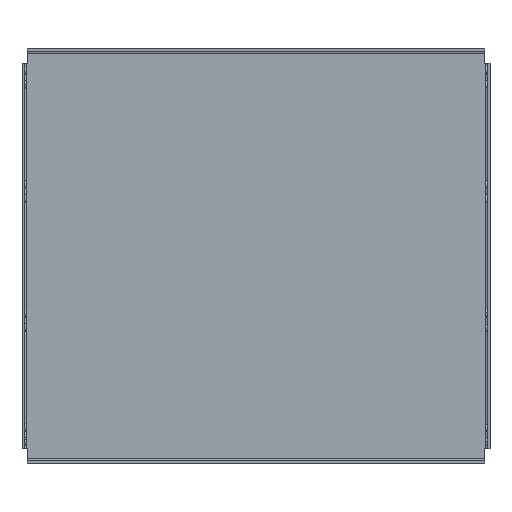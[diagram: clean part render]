
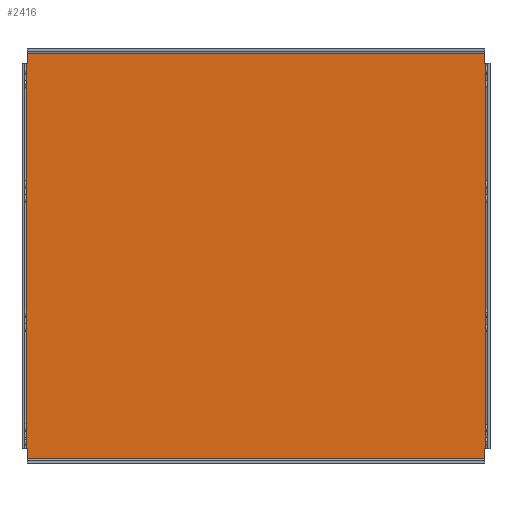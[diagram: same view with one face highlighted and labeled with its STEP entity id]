
A CAD part, front view. The second image highlights one B-rep face of the part: STEP entity #2416.
In plain terms, the highlighted planar face has unit normal (0, -1, 0).
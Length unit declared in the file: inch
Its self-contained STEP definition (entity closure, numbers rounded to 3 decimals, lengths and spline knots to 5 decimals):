
#5 = CARTESIAN_POINT ( 'NONE',  ( 16.187, 0.78, -0.15 ) ) ;
#81 = VECTOR ( 'NONE', #152, 39.37008 ) ;
#144 = CARTESIAN_POINT ( 'NONE',  ( 16.187, 0.78, -14.5 ) ) ;
#152 = DIRECTION ( 'NONE',  ( 0., 0., 1. ) ) ;
#209 = ORIENTED_EDGE ( 'NONE', *, *, #4197, .F. ) ;
#212 = VERTEX_POINT ( 'NONE', #2161 ) ;
#232 = CARTESIAN_POINT ( 'NONE',  ( 16.187, 0.78, -14. ) ) ;
#267 = VERTEX_POINT ( 'NONE', #2026 ) ;
#271 = CARTESIAN_POINT ( 'NONE',  ( 0.15, 0.78, -14. ) ) ;
#331 = ORIENTED_EDGE ( 'NONE', *, *, #4506, .F. ) ;
#378 = ORIENTED_EDGE ( 'NONE', *, *, #4173, .F. ) ;
#403 = VECTOR ( 'NONE', #2145, 39.37008 ) ;
#472 = LINE ( 'NONE', #4515, #3485 ) ;
#534 = LINE ( 'NONE', #2198, #2482 ) ;
#558 = FACE_OUTER_BOUND ( 'NONE', #2595, .T. ) ;
#563 = VERTEX_POINT ( 'NONE', #5 ) ;
#722 = CARTESIAN_POINT ( 'NONE',  ( 0.188, 0.78, -0.15 ) ) ;
#868 = VECTOR ( 'NONE', #4699, 39.37008 ) ;
#1224 = VECTOR ( 'NONE', #3751, 39.37008 ) ;
#1327 = ORIENTED_EDGE ( 'NONE', *, *, #4488, .F. ) ;
#1334 = ORIENTED_EDGE ( 'NONE', *, *, #4299, .F. ) ;
#1348 = LINE ( 'NONE', #3708, #1224 ) ;
#1373 = VERTEX_POINT ( 'NONE', #3411 ) ;
#1458 = LINE ( 'NONE', #2138, #3420 ) ;
#1475 = VERTEX_POINT ( 'NONE', #3295 ) ;
#1496 = CARTESIAN_POINT ( 'NONE',  ( 16.225, 0.78, -14. ) ) ;
#1565 = VERTEX_POINT ( 'NONE', #3268 ) ;
#1662 = ORIENTED_EDGE ( 'NONE', *, *, #3798, .T. ) ;
#1685 = LINE ( 'NONE', #3891, #3544 ) ;
#1828 = CARTESIAN_POINT ( 'NONE',  ( 16.187, 0.78, -14.35 ) ) ;
#1907 = DIRECTION ( 'NONE',  ( 0., 0., -1. ) ) ;
#1916 = CARTESIAN_POINT ( 'NONE',  ( 0., 0.78, -14.5 ) ) ;
#1918 = PLANE ( 'NONE',  #3246 ) ;
#1941 = DIRECTION ( 'NONE',  ( 0., -1., 0. ) ) ;
#2026 = CARTESIAN_POINT ( 'NONE',  ( 0.188, 0.78, -0.5 ) ) ;
#2083 = DIRECTION ( 'NONE',  ( -1., 0., 0. ) ) ;
#2089 = CARTESIAN_POINT ( 'NONE',  ( 0., 0.78, -14. ) ) ;
#2129 = DIRECTION ( 'NONE',  ( 1., 0., 0. ) ) ;
#2138 = CARTESIAN_POINT ( 'NONE',  ( 0., 0.78, -0.5 ) ) ;
#2145 = DIRECTION ( 'NONE',  ( 1., 0., 0. ) ) ;
#2161 = CARTESIAN_POINT ( 'NONE',  ( 0.15, 0.78, -0.5 ) ) ;
#2163 = CARTESIAN_POINT ( 'NONE',  ( 0., 0.78, -0.5 ) ) ;
#2164 = DIRECTION ( 'NONE',  ( 0., 0., 1. ) ) ;
#2175 = DIRECTION ( 'NONE',  ( 1., 0., 0. ) ) ;
#2178 = CARTESIAN_POINT ( 'NONE',  ( 0., 0.78, -14. ) ) ;
#2198 = CARTESIAN_POINT ( 'NONE',  ( 16.225, 0.78, -14.5 ) ) ;
#2242 = DIRECTION ( 'NONE',  ( 0., 0., 1. ) ) ;
#2244 = CARTESIAN_POINT ( 'NONE',  ( 0.188, 0.78, -14.5 ) ) ;
#2413 = ORIENTED_EDGE ( 'NONE', *, *, #4268, .F. ) ;
#2416 = ADVANCED_FACE ( 'NONE', ( #558 ), #1918, .T. ) ;
#2471 = ORIENTED_EDGE ( 'NONE', *, *, #4514, .F. ) ;
#2482 = VECTOR ( 'NONE', #2164, 39.37008 ) ;
#2571 = VERTEX_POINT ( 'NONE', #1828 ) ;
#2595 = EDGE_LOOP ( 'NONE', ( #1327, #378, #1662, #5096, #3210, #331, #209, #2413, #3598, #2875, #1334, #2471 ) ) ;
#2605 = VECTOR ( 'NONE', #2083, 39.37008 ) ;
#2608 = VECTOR ( 'NONE', #3900, 39.37008 ) ;
#2721 = LINE ( 'NONE', #2244, #2834 ) ;
#2780 = LINE ( 'NONE', #4718, #868 ) ;
#2834 = VECTOR ( 'NONE', #2242, 39.37008 ) ;
#2875 = ORIENTED_EDGE ( 'NONE', *, *, #4511, .F. ) ;
#2897 = CARTESIAN_POINT ( 'NONE',  ( 16.225, 0.78, -0.5 ) ) ;
#3183 = LINE ( 'NONE', #144, #81 ) ;
#3210 = ORIENTED_EDGE ( 'NONE', *, *, #4504, .T. ) ;
#3246 = AXIS2_PLACEMENT_3D ( 'NONE', #1916, #1941, #1907 ) ;
#3268 = CARTESIAN_POINT ( 'NONE',  ( 0.188, 0.78, -14. ) ) ;
#3295 = CARTESIAN_POINT ( 'NONE',  ( 16.187, 0.78, -0.5 ) ) ;
#3298 = VERTEX_POINT ( 'NONE', #722 ) ;
#3411 = CARTESIAN_POINT ( 'NONE',  ( 0.188, 0.78, -14.35 ) ) ;
#3420 = VECTOR ( 'NONE', #2129, 39.37008 ) ;
#3485 = VECTOR ( 'NONE', #4496, 39.37008 ) ;
#3542 = LINE ( 'NONE', #2163, #403 ) ;
#3544 = VECTOR ( 'NONE', #3874, 39.37008 ) ;
#3598 = ORIENTED_EDGE ( 'NONE', *, *, #4279, .F. ) ;
#3648 = VERTEX_POINT ( 'NONE', #232 ) ;
#3684 = LINE ( 'NONE', #2178, #3818 ) ;
#3685 = LINE ( 'NONE', #3962, #2608 ) ;
#3708 = CARTESIAN_POINT ( 'NONE',  ( 0.15, 0.78, -14.5 ) ) ;
#3751 = DIRECTION ( 'NONE',  ( 0., 0., 1. ) ) ;
#3798 = EDGE_CURVE ( 'NONE', #2571, #3648, #3183, .T. ) ;
#3818 = VECTOR ( 'NONE', #2175, 39.37008 ) ;
#3874 = DIRECTION ( 'NONE',  ( 0., 0., 1. ) ) ;
#3891 = CARTESIAN_POINT ( 'NONE',  ( 0.188, 0.78, -14.5 ) ) ;
#3900 = DIRECTION ( 'NONE',  ( 1., 0., 0. ) ) ;
#3962 = CARTESIAN_POINT ( 'NONE',  ( 0.188, 0.78, -0.15 ) ) ;
#4011 = VERTEX_POINT ( 'NONE', #1496 ) ;
#4173 = EDGE_CURVE ( 'NONE', #2571, #1373, #2780, .T. ) ;
#4197 = EDGE_CURVE ( 'NONE', #563, #1475, #472, .T. ) ;
#4268 = EDGE_CURVE ( 'NONE', #3298, #563, #3685, .T. ) ;
#4279 = EDGE_CURVE ( 'NONE', #267, #3298, #1685, .T. ) ;
#4299 = EDGE_CURVE ( 'NONE', #4769, #212, #1348, .T. ) ;
#4401 = VERTEX_POINT ( 'NONE', #2897 ) ;
#4488 = EDGE_CURVE ( 'NONE', #1373, #1565, #2721, .T. ) ;
#4496 = DIRECTION ( 'NONE',  ( 0., 0., -1. ) ) ;
#4503 = EDGE_CURVE ( 'NONE', #3648, #4011, #3684, .T. ) ;
#4504 = EDGE_CURVE ( 'NONE', #4011, #4401, #534, .T. ) ;
#4506 = EDGE_CURVE ( 'NONE', #1475, #4401, #3542, .T. ) ;
#4511 = EDGE_CURVE ( 'NONE', #212, #267, #1458, .T. ) ;
#4514 = EDGE_CURVE ( 'NONE', #1565, #4769, #4586, .T. ) ;
#4515 = CARTESIAN_POINT ( 'NONE',  ( 16.187, 0.78, -14.5 ) ) ;
#4586 = LINE ( 'NONE', #2089, #2605 ) ;
#4699 = DIRECTION ( 'NONE',  ( -1., 0., 0. ) ) ;
#4718 = CARTESIAN_POINT ( 'NONE',  ( 16.187, 0.78, -14.35 ) ) ;
#4769 = VERTEX_POINT ( 'NONE', #271 ) ;
#5096 = ORIENTED_EDGE ( 'NONE', *, *, #4503, .T. ) ;
